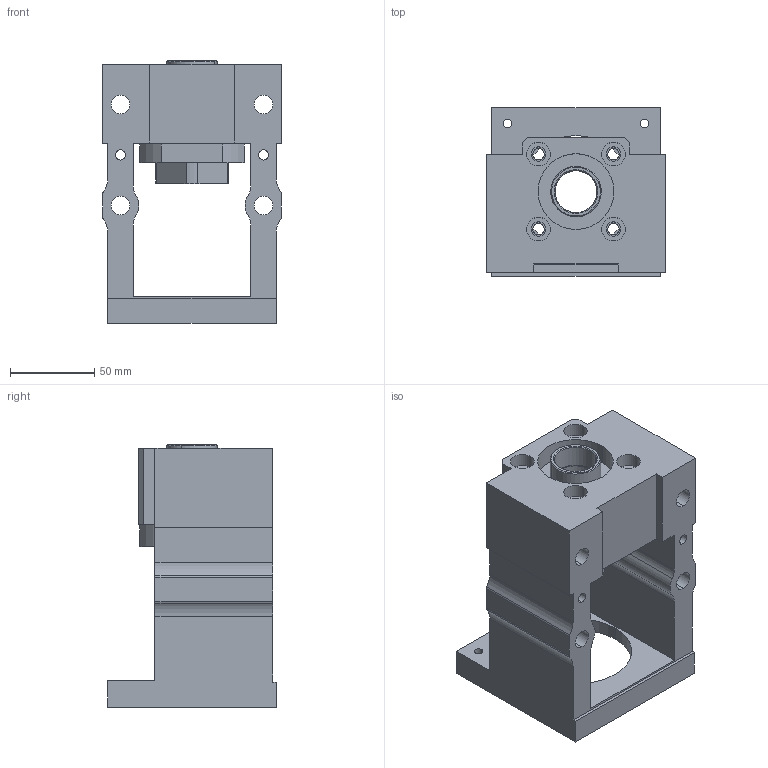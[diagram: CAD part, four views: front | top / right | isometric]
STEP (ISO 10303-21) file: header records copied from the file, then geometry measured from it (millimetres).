
FILE_DESCRIPTION((''),'2;1');
FILE_NAME('M100YP-BK25-C_ASM','2019-07-23T',('ASUS'),(''),'PRO/ENGINEER BY PARAMETRIC TECHNOLOGY CORPORATION, 2010280','PRO/ENGINEER BY PARAMETRIC TECHNOLOGY CORPORATION, 2010280','');
FILE_SCHEMA(('CONFIG_CONTROL_DESIGN'));
Length unit declared in the file: millimetre
Products named in the file (7): PRT0004; PRT0005; PRT0006; PRT0007; ASM0002_ASM; ASM0001_ASM; M100YP-BK25-C_ASM
Assembly tree (7 placements, depth 4):
  M100YP-BK25-C_ASM
    ASM0001_ASM
      ASM0002_ASM
        PRT0004
        PRT0005  x2
        PRT0006
        PRT0007
Bounding box: 106 x 100 x 156 mm (x, y, z)
Volume: 582657.8 mm3; surface area: 128845.8 mm2
Topology: 5 solids, 5 shells, 203 faces, 552 edges, 372 vertices
Faces by surface type: cylinder 111, plane 70, cone 22
Entity records: 6573 total; most frequent: CARTESIAN_POINT 1222, DIRECTION 1166, ORIENTED_EDGE 1040, EDGE_CURVE 520, AXIS2_PLACEMENT_3D 449, VERTEX_POINT 356, VECTOR 268, LINE 268
